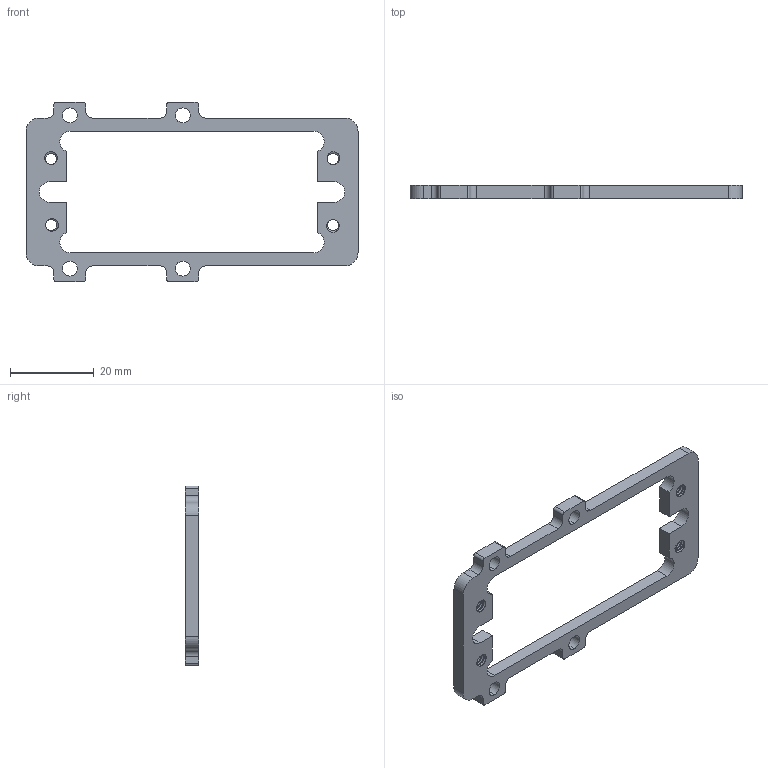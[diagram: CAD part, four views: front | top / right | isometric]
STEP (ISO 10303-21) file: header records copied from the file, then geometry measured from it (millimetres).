
FILE_DESCRIPTION (( 'STEP AP203' ), '1' );
FILE_NAME ('575116.STEP', '2016-08-22T15:32:42', ( '' ), ( '' ), 'SwSTEP 2.0', 'SolidWorks 2014', '' );
FILE_SCHEMA (( 'CONFIG_CONTROL_DESIGN' ));
Length unit declared in the file: inch
Products named in the file (1): 575116
Bounding box: 79.25 x 3.17 x 42.93 mm (x, y, z)
Volume: 3263.5 mm3; surface area: 3825 mm2
Topology: 1 solids, 1 shells, 150 faces, 444 edges, 296 vertices
Faces by surface type: cylinder 110, plane 32, bspline 8
Entity records: 9551 total; most frequent: CARTESIAN_POINT 5823, ORIENTED_EDGE 888, DIRECTION 662, EDGE_CURVE 444, VERTEX_POINT 296, AXIS2_PLACEMENT_3D 235, VECTOR 192, LINE 192
